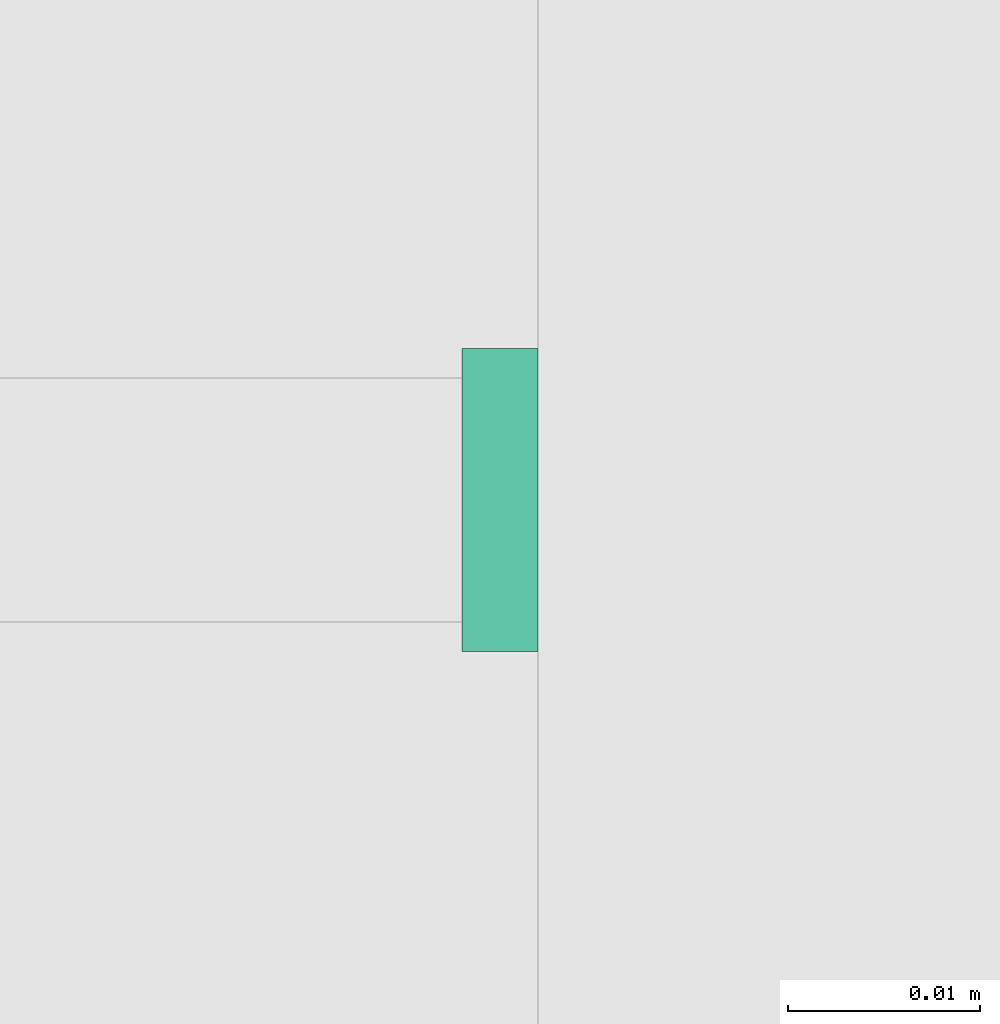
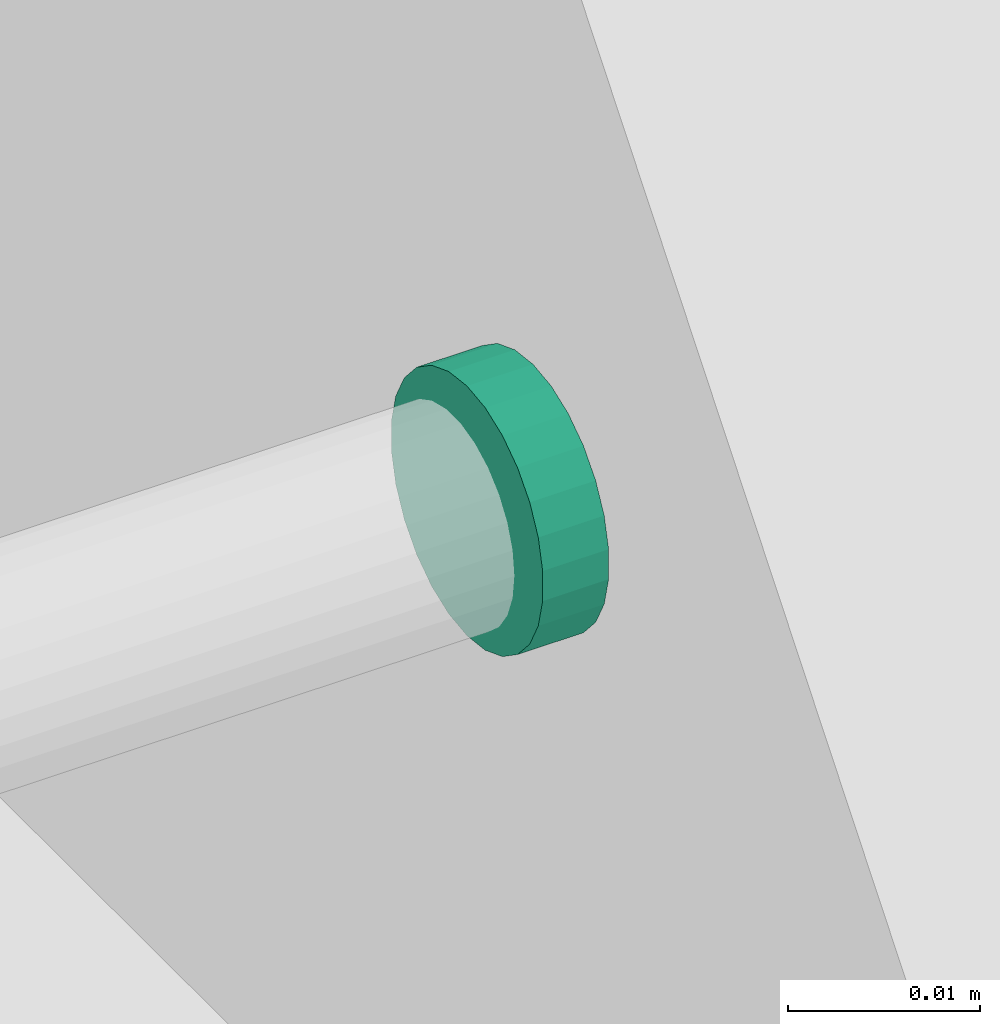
# One storey, part 13 of 24: 1 flow fitting.
"""IFC2X3 building model written with IfcOpenShell, lengths in millimetres."""

from ifc_helpers import new_model, entity, si_unit, converted_unit, derived_unit, direction, frame, origin, origin_2d_with_axis, place, context, subcontext, project, spatial, circle, extrude, source, transform, mapped, material, type_object, type_shapes, element, save


model = new_model("IFC2X3")

# Units and contexts
model_context = context("Model", 3, precision=0.01, world=origin(), true_north=direction((6.123031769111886e-17, 1.0)))
body_context = subcontext(model_context, "Body", "Model", "MODEL_VIEW")
ifc_project = project(units=[si_unit("LENGTHUNIT", "METRE", prefix="MILLI"), si_unit("AREAUNIT", "SQUARE_METRE"), si_unit("VOLUMEUNIT", "CUBIC_METRE"), converted_unit("PLANEANGLEUNIT", "DEGREE", entity("IfcRatioMeasure", 0.017453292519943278), si_unit("PLANEANGLEUNIT", "RADIAN"), dimensions=[0, 0, 0, 0, 0, 0, 0]), si_unit("MASSUNIT", "GRAM", prefix="KILO"), derived_unit("MASSDENSITYUNIT", [(si_unit("MASSUNIT", "GRAM", prefix="KILO"), 1), (si_unit("LENGTHUNIT", "METRE"), -3)]), derived_unit("MOMENTOFINERTIAUNIT", [(si_unit("LENGTHUNIT", "METRE"), 4)]), si_unit("TIMEUNIT", "SECOND"), si_unit("FREQUENCYUNIT", "HERTZ"), si_unit("THERMODYNAMICTEMPERATUREUNIT", "DEGREE_CELSIUS"), derived_unit("THERMALTRANSMITTANCEUNIT", [(si_unit("MASSUNIT", "GRAM", prefix="KILO"), 1), (si_unit("THERMODYNAMICTEMPERATUREUNIT", "KELVIN"), -1), (si_unit("TIMEUNIT", "SECOND"), -3)]), derived_unit("VOLUMETRICFLOWRATEUNIT", [(si_unit("LENGTHUNIT", "METRE"), 3), (si_unit("TIMEUNIT", "SECOND"), -1)]), derived_unit("MASSFLOWRATEUNIT", [(si_unit("MASSUNIT", "GRAM", prefix="KILO"), 1), (si_unit("TIMEUNIT", "SECOND"), -1)]), derived_unit("ROTATIONALFREQUENCYUNIT", [(si_unit("TIMEUNIT", "SECOND"), -1)]), si_unit("ELECTRICCURRENTUNIT", "AMPERE"), si_unit("ELECTRICVOLTAGEUNIT", "VOLT"), si_unit("POWERUNIT", "WATT"), si_unit("FORCEUNIT", "NEWTON", prefix="KILO"), si_unit("ILLUMINANCEUNIT", "LUX"), si_unit("LUMINOUSFLUXUNIT", "LUMEN"), si_unit("LUMINOUSINTENSITYUNIT", "CANDELA"), derived_unit("USERDEFINED", [(si_unit("MASSUNIT", "GRAM", prefix="KILO"), -1), (si_unit("LENGTHUNIT", "METRE"), -2), (si_unit("TIMEUNIT", "SECOND"), 3), (si_unit("LUMINOUSFLUXUNIT", "LUMEN"), 1)]), derived_unit("SOUNDPOWERUNIT", [(si_unit("MASSUNIT", "GRAM", prefix="KILO"), 1), (si_unit("LENGTHUNIT", "METRE"), 2), (si_unit("TIMEUNIT", "SECOND"), -3)]), derived_unit("SOUNDPRESSUREUNIT", [(si_unit("MASSUNIT", "GRAM", prefix="KILO"), 1), (si_unit("LENGTHUNIT", "METRE"), -1), (si_unit("TIMEUNIT", "SECOND"), -2)]), derived_unit("LINEARVELOCITYUNIT", [(si_unit("LENGTHUNIT", "METRE"), 1), (si_unit("TIMEUNIT", "SECOND"), -1)]), si_unit("PRESSUREUNIT", "PASCAL"), derived_unit("USERDEFINED", [(si_unit("LENGTHUNIT", "METRE"), -2), (si_unit("MASSUNIT", "GRAM", prefix="KILO"), 1), (si_unit("TIMEUNIT", "SECOND"), -2)]), derived_unit("LINEARFORCEUNIT", [(si_unit("MASSUNIT", "GRAM", prefix="KILO"), 1), (si_unit("LENGTHUNIT", "METRE"), 1), (si_unit("TIMEUNIT", "SECOND"), -2), (si_unit("LENGTHUNIT", "METRE"), -1)]), derived_unit("PLANARFORCEUNIT", [(si_unit("MASSUNIT", "GRAM", prefix="KILO"), 1), (si_unit("LENGTHUNIT", "METRE"), 1), (si_unit("TIMEUNIT", "SECOND"), -2), (si_unit("LENGTHUNIT", "METRE"), -2)])], contexts=[model_context])

# Site, building, storey
site_placement = place(None, origin())
site = spatial("IfcSite", under=ifc_project, at=site_placement, Name="Default", CompositionType="ELEMENT")
building_placement = place(site_placement, origin())
building = spatial("IfcBuilding", under=site, at=building_placement, CompositionType="ELEMENT")
storey_placement = place(building_placement, origin())
storey = spatial("IfcBuildingStorey", under=building, at=storey_placement, Name="Level 1", CompositionType="ELEMENT", Elevation=0.0)

# Flow fitting
ifc_material = material(Name="<Unnamed>")
pipe_fitting_type = type_object("IfcPipeFittingType", Name="M_Transition - Generic:Standard:Standard : M_Transition - Generic:Standard", PredefinedType="NOTDEFINED", material=ifc_material)
shared_shape = source(origin(), body_context, "Body", "SweptSolid", [
    extrude(circle(Radius=7.937500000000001, at=origin_2d_with_axis()), frame((2989.23468113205, -2588.31947897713, 2710.0), z_axis=(1.0, 0.0, 0.0), x_axis=(0.0, 0.0, 1.0)), (0.0, 0.0, 1.0), 3.9687500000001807),
])
type_shapes(pipe_fitting_type, [shared_shape])
flow_fitting_placement = place(storey_placement, origin())
element("IfcFlowFitting", 1, at=flow_fitting_placement, inside=storey, type_object=pipe_fitting_type, material=ifc_material, Name="M_Transition - Generic:Standard:Standard : M_Transition - Generic:Standard:Standard:Standard : M_Transition - Generic:Standard : M_Transition - Generic:Standard:Standard : M_Transition - Generic:Standard", ObjectType="M_Transition - Generic:Standard:Standard : M_Transition - Generic:Standard:Standard:Standard : M_Transition - Generic:Standard : M_Transition - Generic:Standard:Standard : M_Transition - Generic:Standard", context=body_context, shape_type="MappedRepresentation", body=[
    mapped(shared_shape, transform((0.0, 0.0, 0.0), scale=1.0)),
])

save(model, "model.ifc")
